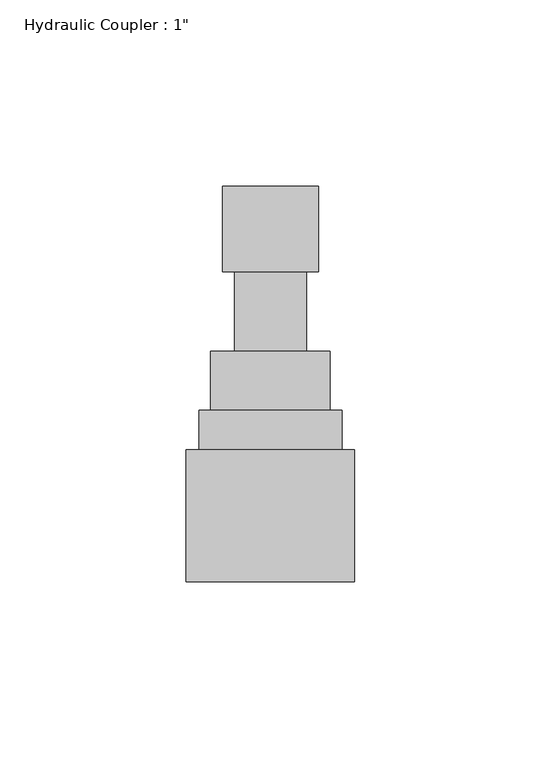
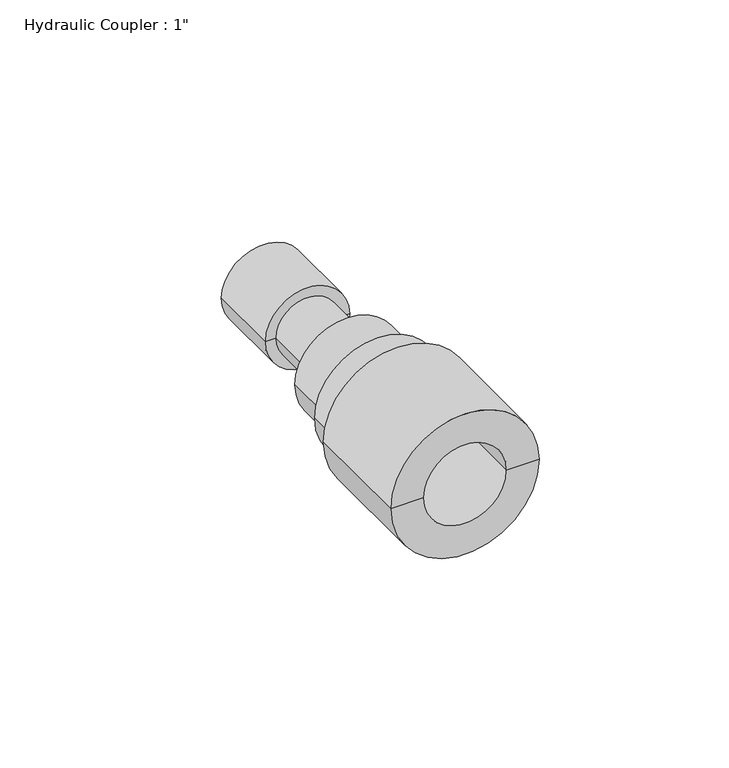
"""IFC4 building model written with IfcOpenShell, lengths in millimetres: valve geometry."""

from ifc_helpers import new_model, si_unit, frame, origin, place, context, project, spatial, polyline, circle_curve, source, transform, mapped, element, save
from ifc_brep_helpers import plane_surface, cylinder_surface, revolved_surface, advanced_brep


def valve_4da584fe(model_context):
    return source(origin(), model_context, "Body", "AdvancedBrep", [
        advanced_brep(
        [(-570.913492, -82.6248003, 0.0), (-558.0440943, -82.6248003, 0.0), (-545.1746966, -82.6248003, 0.0), (-570.913492, -105.6270139, 0.0), (-545.1746966, -105.6270139, 0.0), (-567.7245388, -105.6270139, 0.0), (-548.3636498, -105.6270139, 0.0), (-567.7245388, -126.8598264, 0.0), (-548.3636498, -126.8598264, 0.0), (-580.692492, -153.400842, 0.0), (-577.263492, -153.400842, 0.0), (-538.8246966, -153.400842, 0.0), (-535.3956966, -153.400842, 0.0), (-580.692492, -188.7888628, 0.0), (-535.3956966, -188.7888628, 0.0), (-570.7440943, -188.7888628, 0.0), (-545.3440943, -188.7888628, 0.0), (-574.0745388, -126.8598264, 0.0), (-542.0136498, -126.8598264, 0.0), (-574.0745388, -142.7844357, 0.0), (-542.0136498, -142.7844357, 0.0), (-577.263492, -142.7844357, 0.0), (-538.8246966, -142.7844357, 0.0), (-570.7440943, -150.0770139, 0.0), (-545.3440943, -150.0770139, 0.0), (-558.0440943, -150.0770139, 0.0)],
        [
            (0, 1),
            (1, 2),
            (2, 0, circle_curve(frame((-558.0440943, -82.6248003, 0.0), z_axis=(0.0, 1.0, 0.0), x_axis=(1.0, 0.0, 0.0)), 12.8693977)),
            (0, 2, circle_curve(frame((-558.0440943, -82.6248003, 0.0), z_axis=(0.0, 1.0, 0.0), x_axis=(1.0, 0.0, 0.0)), 12.8693977)),
            (3, 0),
            (2, 4),
            (4, 3, circle_curve(frame((-558.0440943, -105.6270139, 0.0), z_axis=(0.0, 1.0, 0.0), x_axis=(1.0, 0.0, 0.0)), 12.8693977)),
            (3, 4, circle_curve(frame((-558.0440943, -105.6270139, 0.0), z_axis=(0.0, 1.0, 0.0), x_axis=(1.0, 0.0, 0.0)), 12.8693977)),
            (5, 3),
            (4, 6),
            (6, 5, circle_curve(frame((-558.0440943, -105.6270139, 0.0), z_axis=(0.0, 1.0, 0.0), x_axis=(1.0, 0.0, 0.0)), 9.6804445)),
            (5, 6, circle_curve(frame((-558.0440943, -105.6270139, 0.0), z_axis=(0.0, 1.0, 0.0), x_axis=(1.0, 0.0, 0.0)), 9.6804445)),
            (7, 5),
            (6, 8),
            (8, 7, circle_curve(frame((-558.0440943, -126.8598264, 0.0), z_axis=(0.0, 1.0, 0.0), x_axis=(1.0, 0.0, 0.0)), 9.6804445)),
            (7, 8, circle_curve(frame((-558.0440943, -126.8598264, 0.0), z_axis=(0.0, 1.0, 0.0), x_axis=(1.0, 0.0, 0.0)), 9.6804445)),
            (9, 10),
            (10, 11, circle_curve(frame((-558.0440943, -153.400842, 0.0), z_axis=(0.0, -1.0, 0.0), x_axis=(1.0, 0.0, 0.0)), 19.2193977)),
            (11, 12),
            (12, 9, circle_curve(frame((-558.0440943, -153.400842, 0.0), z_axis=(0.0, 1.0, 0.0), x_axis=(1.0, 0.0, 0.0)), 22.6483977)),
            (11, 10, circle_curve(frame((-558.0440943, -153.400842, 0.0), z_axis=(0.0, -1.0, 0.0), x_axis=(1.0, 0.0, 0.0)), 19.2193977)),
            (9, 12, circle_curve(frame((-558.0440943, -153.400842, 0.0), z_axis=(0.0, 1.0, 0.0), x_axis=(1.0, 0.0, 0.0)), 22.6483977)),
            (13, 9),
            (12, 14),
            (14, 13, circle_curve(frame((-558.0440943, -188.7888628, 0.0), z_axis=(0.0, 1.0, 0.0), x_axis=(1.0, 0.0, 0.0)), 22.6483977)),
            (13, 14, circle_curve(frame((-558.0440943, -188.7888628, 0.0), z_axis=(0.0, 1.0, 0.0), x_axis=(1.0, 0.0, 0.0)), 22.6483977)),
            (15, 13),
            (14, 16),
            (16, 15, circle_curve(frame((-558.0440943, -188.7888628, 0.0), z_axis=(0.0, 1.0, 0.0), x_axis=(1.0, 0.0, 0.0)), 12.7)),
            (15, 16, circle_curve(frame((-558.0440943, -188.7888628, 0.0), z_axis=(0.0, 1.0, 0.0), x_axis=(1.0, 0.0, 0.0)), 12.7)),
            (17, 7),
            (8, 18),
            (18, 17, circle_curve(frame((-558.0440943, -126.8598264, 0.0), z_axis=(0.0, 1.0, 0.0), x_axis=(1.0, 0.0, 0.0)), 16.0304445)),
            (17, 18, circle_curve(frame((-558.0440943, -126.8598264, 0.0), z_axis=(0.0, 1.0, 0.0), x_axis=(1.0, 0.0, 0.0)), 16.0304445)),
            (19, 17),
            (18, 20),
            (20, 19, circle_curve(frame((-558.0440943, -142.7844357, 0.0), z_axis=(0.0, 1.0, 0.0), x_axis=(1.0, 0.0, 0.0)), 16.0304445)),
            (19, 20, circle_curve(frame((-558.0440943, -142.7844357, 0.0), z_axis=(0.0, 1.0, 0.0), x_axis=(1.0, 0.0, 0.0)), 16.0304445)),
            (21, 19),
            (20, 22),
            (22, 21, circle_curve(frame((-558.0440943, -142.7844357, 0.0), z_axis=(0.0, 1.0, 0.0), x_axis=(1.0, 0.0, 0.0)), 19.2193977)),
            (21, 22, circle_curve(frame((-558.0440943, -142.7844357, 0.0), z_axis=(0.0, 1.0, 0.0), x_axis=(1.0, 0.0, 0.0)), 19.2193977)),
            (10, 21),
            (22, 11),
            (23, 15),
            (16, 24),
            (24, 23, circle_curve(frame((-558.0440943, -150.0770139, 0.0), z_axis=(0.0, 1.0, 0.0), x_axis=(1.0, 0.0, 0.0)), 12.7)),
            (23, 24, circle_curve(frame((-558.0440943, -150.0770139, 0.0), z_axis=(0.0, 1.0, 0.0), x_axis=(1.0, 0.0, 0.0)), 12.7)),
            (25, 23),
            (24, 25),
        ],
        [
            plane_surface(frame((-558.0440943, -82.6248003, 0.0), z_axis=(0.0, 1.0, 0.0), x_axis=(1.0, 0.0, 0.0))),
            cylinder_surface(frame((-558.0440943, -188.7888628, 0.0), z_axis=(0.0, -1.0, 0.0), x_axis=(1.0, 0.0, 0.0)), 12.8693977),
            plane_surface(frame((-558.0440943, -105.6270139, 0.0), z_axis=(0.0, -1.0, 0.0), x_axis=(1.0, 0.0, 0.0))),
            cylinder_surface(frame((-558.0440943, -188.7888628, 0.0), z_axis=(0.0, -1.0, 0.0), x_axis=(1.0, 0.0, 0.0)), 9.6804445),
            plane_surface(frame((-558.0440943, -153.400842, 0.0), z_axis=(0.0, 1.0, 0.0), x_axis=(1.0, 0.0, 0.0))),
            cylinder_surface(frame((-558.0440943, -188.7888628, 0.0), z_axis=(0.0, -1.0, 0.0), x_axis=(1.0, 0.0, 0.0)), 22.6483977),
            plane_surface(frame((-558.0440943, -188.7888628, 0.0), z_axis=(0.0, -1.0, 0.0), x_axis=(1.0, 0.0, 0.0))),
            plane_surface(frame((-558.0440943, -126.8598264, 0.0), z_axis=(0.0, 1.0, 0.0), x_axis=(1.0, 0.0, 0.0))),
            cylinder_surface(frame((-558.0440943, -188.7888628, 0.0), z_axis=(0.0, -1.0, 0.0), x_axis=(1.0, 0.0, 0.0)), 16.0304445),
            plane_surface(frame((-558.0440943, -142.7844357, 0.0), z_axis=(0.0, 1.0, 0.0), x_axis=(1.0, 0.0, 0.0))),
            cylinder_surface(frame((-558.0440943, -188.7888628, 0.0), z_axis=(0.0, -1.0, 0.0), x_axis=(1.0, 0.0, 0.0)), 19.2193977),
            revolved_surface(polyline([(-545.3440942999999, -188.7888628, 0.0), (-545.3440942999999, -150.0770139, 0.0)]), (-558.0440943, -188.7888628, 0.0), (0.0, -1.0, 0.0)),
            plane_surface(frame((-558.0440943, -150.0770139, 0.0), z_axis=(0.0, -1.0, 0.0), x_axis=(1.0, 0.0, 0.0))),
        ],
        [
            (0, [[1, 2, 3]]),
            (0, [[-2, -1, 4]]),
            (1, [[5, -3, 6, 7]]),
            (1, [[-6, -4, -5, 8]]),
            (2, [[9, -7, 10, 11]]),
            (2, [[-10, -8, -9, 12]]),
            (3, [[13, -11, 14, 15]]),
            (3, [[-14, -12, -13, 16]]),
            (4, [[17, 18, 19, 20]]),
            (4, [[-19, 21, -17, 22]]),
            (5, [[23, -20, 24, 25]]),
            (5, [[-24, -22, -23, 26]]),
            (6, [[27, -25, 28, 29]]),
            (6, [[-28, -26, -27, 30]]),
            (7, [[31, -15, 32, 33]]),
            (7, [[-32, -16, -31, 34]]),
            (8, [[35, -33, 36, 37]]),
            (8, [[-36, -34, -35, 38]]),
            (9, [[39, -37, 40, 41]]),
            (9, [[-40, -38, -39, 42]]),
            (10, [[43, -41, 44, -18]]),
            (10, [[-44, -42, -43, -21]]),
            (11, [[45, -29, 46, 47]]),
            (11, [[-46, -30, -45, 48]]),
            (12, [[49, -47, 50]]),
            (12, [[-50, -48, -49]]),
        ],
    ),
    ])


if __name__ == "__main__":
    model = new_model("IFC4")
    model_context = context("Model", 3, world=origin())
    ifc_project = project(units=[si_unit("LENGTHUNIT", "METRE", prefix="MILLI")], contexts=[model_context])
    site = spatial("IfcSite", under=ifc_project)
    building = spatial("IfcBuilding", under=site)
    placement = place(None, origin())
    valve_shape = valve_4da584fe(model_context)
    element("IfcValve", 1, ObjectType="Hydraulic Coupler : 1\"", at=placement, inside=building, context=model_context, shape_type="MappedRepresentation", body=[
        mapped(valve_shape, transform((0.0, 0.0, 0.0), x_axis=(1.0, 0.0, 0.0), y_axis=(0.0, 1.0, 0.0), z_axis=(0.0, 0.0, 1.0))),
    ])
    save(model, "model.ifc")
